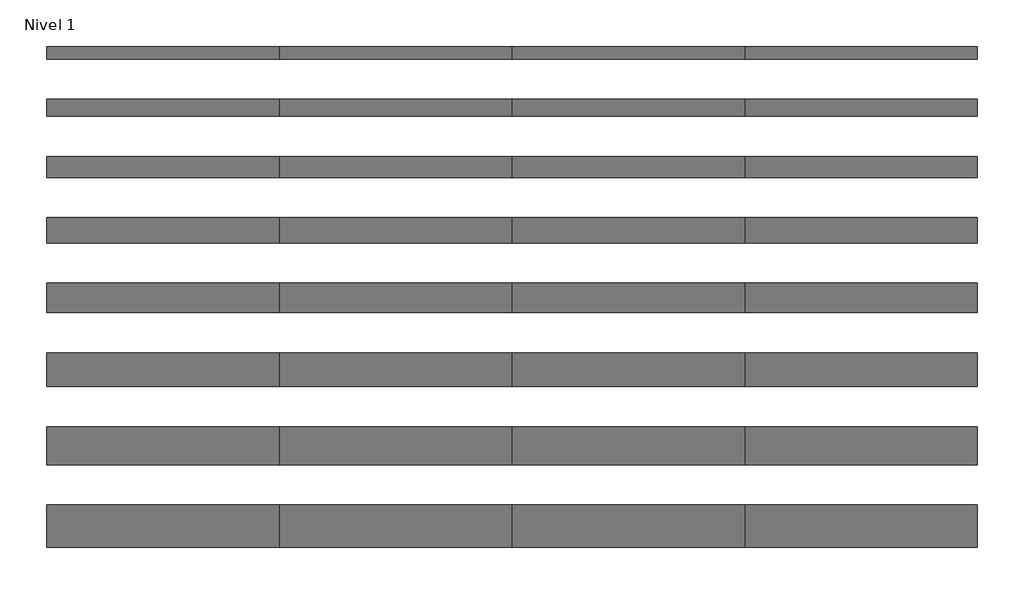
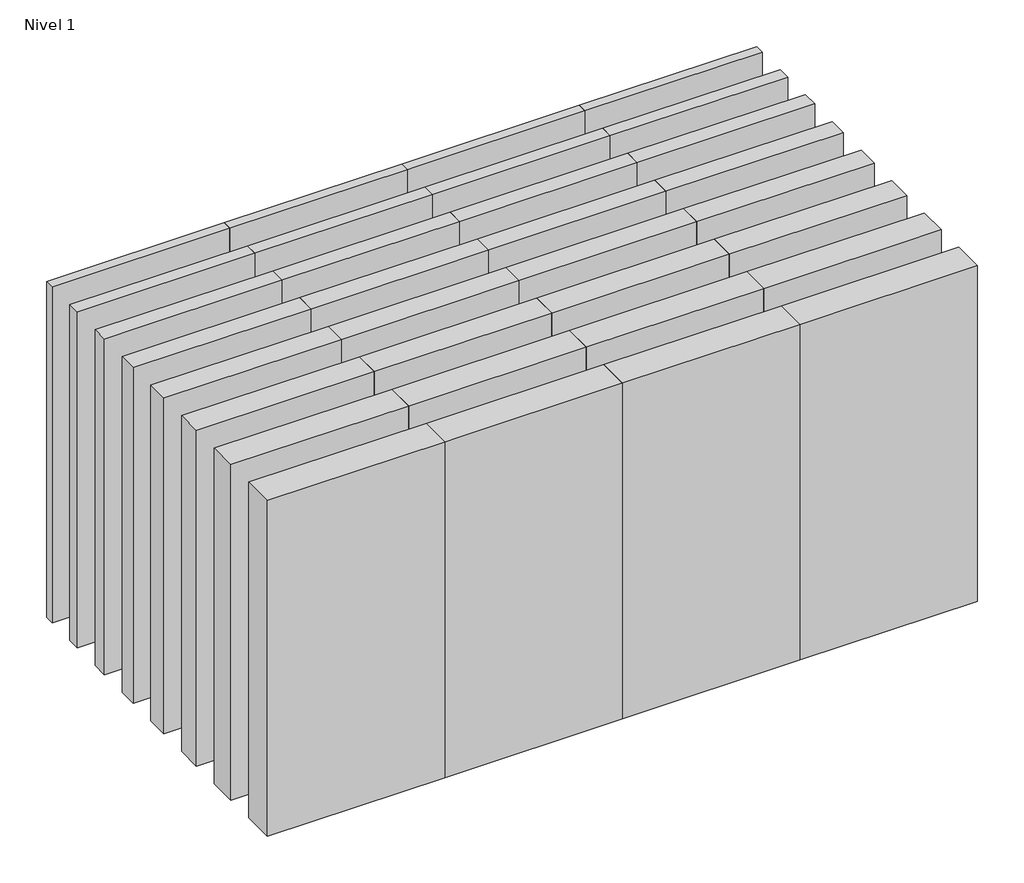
# One storey: 32 plates.
"""IFC4 building model written with IfcOpenShell, lengths in millimetres."""

from ifc_helpers import new_model, si_unit, origin, place, context, project, spatial, transform, mapped, element, save
from components import panel_del_sistema_00c51783, panel_del_sistema_633de202, panel_del_sistema_becaef52, panel_del_sistema_3f4cdfb2, panel_del_sistema_e1a72ffe, panel_del_sistema_e42a28a5, panel_del_sistema_94fc436b, panel_del_sistema_08b3212e

model = new_model("IFC4")

# Units and contexts
model_context = context("Model", 3, world=origin())
ifc_project = project(units=[si_unit("LENGTHUNIT", "METRE", prefix="MILLI")], contexts=[model_context])

# Site, building, storey
site = spatial("IfcSite", under=ifc_project)
building = spatial("IfcBuilding", under=site)
storey = spatial("IfcBuildingStorey", under=building, Name="Nivel 1", Elevation=0.0)

# Plates
placement = place(None, origin())
panel_del_sistema_shape = panel_del_sistema_00c51783(model_context)
element("IfcPlate", 1, ObjectType="Panel del sistema : Hiansa Panel - Fachada Panel FRIGO ULTRA - 60mm", at=placement, inside=storey, context=model_context, shape_type="MappedRepresentation", body=[
    mapped(panel_del_sistema_shape, transform((4818.1436702, 17636.5269276, 0.0), x_axis=(1.0, 0.0, 0.0), y_axis=(0.0, 1.0, 0.0), z_axis=(0.0, 0.0, 1.0))),
])
element("IfcPlate", 2, ObjectType="Panel del sistema : Hiansa Panel - Fachada Panel FRIGO ULTRA - 60mm", at=placement, inside=storey, context=model_context, shape_type="MappedRepresentation", body=[
    mapped(panel_del_sistema_shape, transform((5918.1436703, 17636.5269276, 0.0), x_axis=(1.0, 0.0, 0.0), y_axis=(0.0, 1.0, 0.0), z_axis=(0.0, 0.0, 1.0))),
])
element("IfcPlate", 3, ObjectType="Panel del sistema : Hiansa Panel - Fachada Panel FRIGO ULTRA - 60mm", at=placement, inside=storey, context=model_context, shape_type="MappedRepresentation", body=[
    mapped(panel_del_sistema_shape, transform((7018.1436703, 17636.5269276, 0.0), x_axis=(1.0, 0.0, 0.0), y_axis=(0.0, 1.0, 0.0), z_axis=(0.0, 0.0, 1.0))),
])
element("IfcPlate", 4, ObjectType="Panel del sistema : Hiansa Panel - Fachada Panel FRIGO ULTRA - 60mm", at=placement, inside=storey, context=model_context, shape_type="MappedRepresentation", body=[
    mapped(panel_del_sistema_shape, transform((8118.1436702, 17636.5269276, 0.0), x_axis=(1.0, 0.0, 0.0), y_axis=(0.0, 1.0, 0.0), z_axis=(0.0, 0.0, 1.0))),
])
panel_del_sistema_2_shape = panel_del_sistema_633de202(model_context)
element("IfcPlate", 5, ObjectType="Panel del sistema : Hiansa Panel - Fachada Panel FRIGO ULTRA - 80mm", at=placement, inside=storey, context=model_context, shape_type="MappedRepresentation", body=[
    mapped(panel_del_sistema_2_shape, transform((4818.1436702, 17386.5269276, 0.0), x_axis=(1.0, 0.0, 0.0), y_axis=(0.0, 1.0, 0.0), z_axis=(0.0, 0.0, 1.0))),
])
element("IfcPlate", 6, ObjectType="Panel del sistema : Hiansa Panel - Fachada Panel FRIGO ULTRA - 80mm", at=placement, inside=storey, context=model_context, shape_type="MappedRepresentation", body=[
    mapped(panel_del_sistema_2_shape, transform((5918.1436703, 17386.5269276, 0.0), x_axis=(1.0, 0.0, 0.0), y_axis=(0.0, 1.0, 0.0), z_axis=(0.0, 0.0, 1.0))),
])
element("IfcPlate", 7, ObjectType="Panel del sistema : Hiansa Panel - Fachada Panel FRIGO ULTRA - 80mm", at=placement, inside=storey, context=model_context, shape_type="MappedRepresentation", body=[
    mapped(panel_del_sistema_2_shape, transform((7018.1436703, 17386.5269276, 0.0), x_axis=(1.0, 0.0, 0.0), y_axis=(0.0, 1.0, 0.0), z_axis=(0.0, 0.0, 1.0))),
])
element("IfcPlate", 8, ObjectType="Panel del sistema : Hiansa Panel - Fachada Panel FRIGO ULTRA - 80mm", at=placement, inside=storey, context=model_context, shape_type="MappedRepresentation", body=[
    mapped(panel_del_sistema_2_shape, transform((8118.1436702, 17386.5269276, 0.0), x_axis=(1.0, 0.0, 0.0), y_axis=(0.0, 1.0, 0.0), z_axis=(0.0, 0.0, 1.0))),
])
panel_del_sistema_3_shape = panel_del_sistema_becaef52(model_context)
element("IfcPlate", 9, ObjectType="Panel del sistema : Hiansa Panel - Fachada Panel FRIGO ULTRA - 100mm", at=placement, inside=storey, context=model_context, shape_type="MappedRepresentation", body=[
    mapped(panel_del_sistema_3_shape, transform((4818.1436702, 17116.5269271, 0.0), x_axis=(1.0, 0.0, 0.0), y_axis=(0.0, 1.0, 0.0), z_axis=(0.0, 0.0, 1.0))),
])
element("IfcPlate", 10, ObjectType="Panel del sistema : Hiansa Panel - Fachada Panel FRIGO ULTRA - 100mm", at=placement, inside=storey, context=model_context, shape_type="MappedRepresentation", body=[
    mapped(panel_del_sistema_3_shape, transform((5918.1436703, 17116.5269271, 0.0), x_axis=(1.0, 0.0, 0.0), y_axis=(0.0, 1.0, 0.0), z_axis=(0.0, 0.0, 1.0))),
])
element("IfcPlate", 11, ObjectType="Panel del sistema : Hiansa Panel - Fachada Panel FRIGO ULTRA - 100mm", at=placement, inside=storey, context=model_context, shape_type="MappedRepresentation", body=[
    mapped(panel_del_sistema_3_shape, transform((7018.1436703, 17116.5269271, 0.0), x_axis=(1.0, 0.0, 0.0), y_axis=(0.0, 1.0, 0.0), z_axis=(0.0, 0.0, 1.0))),
])
element("IfcPlate", 12, ObjectType="Panel del sistema : Hiansa Panel - Fachada Panel FRIGO ULTRA - 100mm", at=placement, inside=storey, context=model_context, shape_type="MappedRepresentation", body=[
    mapped(panel_del_sistema_3_shape, transform((8118.1436702, 17116.5269271, 0.0), x_axis=(1.0, 0.0, 0.0), y_axis=(0.0, 1.0, 0.0), z_axis=(0.0, 0.0, 1.0))),
])
panel_del_sistema_4_shape = panel_del_sistema_3f4cdfb2(model_context)
element("IfcPlate", 13, ObjectType="Panel del sistema : Hiansa Panel - Fachada Panel FRIGO ULTRA - 120mm", at=placement, inside=storey, context=model_context, shape_type="MappedRepresentation", body=[
    mapped(panel_del_sistema_4_shape, transform((4818.1436702, 16826.5269271, 0.0), x_axis=(1.0, 0.0, 0.0), y_axis=(0.0, 1.0, 0.0), z_axis=(0.0, 0.0, 1.0))),
])
element("IfcPlate", 14, ObjectType="Panel del sistema : Hiansa Panel - Fachada Panel FRIGO ULTRA - 120mm", at=placement, inside=storey, context=model_context, shape_type="MappedRepresentation", body=[
    mapped(panel_del_sistema_4_shape, transform((5918.1436703, 16826.5269271, 0.0), x_axis=(1.0, 0.0, 0.0), y_axis=(0.0, 1.0, 0.0), z_axis=(0.0, 0.0, 1.0))),
])
element("IfcPlate", 15, ObjectType="Panel del sistema : Hiansa Panel - Fachada Panel FRIGO ULTRA - 120mm", at=placement, inside=storey, context=model_context, shape_type="MappedRepresentation", body=[
    mapped(panel_del_sistema_4_shape, transform((7018.1436703, 16826.5269271, 0.0), x_axis=(1.0, 0.0, 0.0), y_axis=(0.0, 1.0, 0.0), z_axis=(0.0, 0.0, 1.0))),
])
element("IfcPlate", 16, ObjectType="Panel del sistema : Hiansa Panel - Fachada Panel FRIGO ULTRA - 120mm", at=placement, inside=storey, context=model_context, shape_type="MappedRepresentation", body=[
    mapped(panel_del_sistema_4_shape, transform((8118.1436702, 16826.5269271, 0.0), x_axis=(1.0, 0.0, 0.0), y_axis=(0.0, 1.0, 0.0), z_axis=(0.0, 0.0, 1.0))),
])
panel_del_sistema_5_shape = panel_del_sistema_e1a72ffe(model_context)
element("IfcPlate", 17, ObjectType="Panel del sistema : Hiansa Panel - Fachada Panel FRIGO ULTRA - 140mm", at=placement, inside=storey, context=model_context, shape_type="MappedRepresentation", body=[
    mapped(panel_del_sistema_5_shape, transform((4818.1436702, 16517.5269271, 0.0), x_axis=(1.0, 0.0, 0.0), y_axis=(0.0, 1.0, 0.0), z_axis=(0.0, 0.0, 1.0))),
])
element("IfcPlate", 18, ObjectType="Panel del sistema : Hiansa Panel - Fachada Panel FRIGO ULTRA - 140mm", at=placement, inside=storey, context=model_context, shape_type="MappedRepresentation", body=[
    mapped(panel_del_sistema_5_shape, transform((5918.1436703, 16517.5269271, 0.0), x_axis=(1.0, 0.0, 0.0), y_axis=(0.0, 1.0, 0.0), z_axis=(0.0, 0.0, 1.0))),
])
element("IfcPlate", 19, ObjectType="Panel del sistema : Hiansa Panel - Fachada Panel FRIGO ULTRA - 140mm", at=placement, inside=storey, context=model_context, shape_type="MappedRepresentation", body=[
    mapped(panel_del_sistema_5_shape, transform((7018.1436703, 16517.5269271, 0.0), x_axis=(1.0, 0.0, 0.0), y_axis=(0.0, 1.0, 0.0), z_axis=(0.0, 0.0, 1.0))),
])
element("IfcPlate", 20, ObjectType="Panel del sistema : Hiansa Panel - Fachada Panel FRIGO ULTRA - 140mm", at=placement, inside=storey, context=model_context, shape_type="MappedRepresentation", body=[
    mapped(panel_del_sistema_5_shape, transform((8118.1436702, 16517.5269271, 0.0), x_axis=(1.0, 0.0, 0.0), y_axis=(0.0, 1.0, 0.0), z_axis=(0.0, 0.0, 1.0))),
])
panel_del_sistema_6_shape = panel_del_sistema_e42a28a5(model_context)
element("IfcPlate", 21, ObjectType="Panel del sistema : Hiansa Panel - Fachada Panel FRIGO ULTRA - 160mm", at=placement, inside=storey, context=model_context, shape_type="MappedRepresentation", body=[
    mapped(panel_del_sistema_6_shape, transform((4818.1436702, 16187.5269271, 0.0), x_axis=(1.0, 0.0, 0.0), y_axis=(0.0, 1.0, 0.0), z_axis=(0.0, 0.0, 1.0))),
])
element("IfcPlate", 22, ObjectType="Panel del sistema : Hiansa Panel - Fachada Panel FRIGO ULTRA - 160mm", at=placement, inside=storey, context=model_context, shape_type="MappedRepresentation", body=[
    mapped(panel_del_sistema_6_shape, transform((5918.1436703, 16187.5269271, 0.0), x_axis=(1.0, 0.0, 0.0), y_axis=(0.0, 1.0, 0.0), z_axis=(0.0, 0.0, 1.0))),
])
element("IfcPlate", 23, ObjectType="Panel del sistema : Hiansa Panel - Fachada Panel FRIGO ULTRA - 160mm", at=placement, inside=storey, context=model_context, shape_type="MappedRepresentation", body=[
    mapped(panel_del_sistema_6_shape, transform((7018.1436703, 16187.5269271, 0.0), x_axis=(1.0, 0.0, 0.0), y_axis=(0.0, 1.0, 0.0), z_axis=(0.0, 0.0, 1.0))),
])
element("IfcPlate", 24, ObjectType="Panel del sistema : Hiansa Panel - Fachada Panel FRIGO ULTRA - 160mm", at=placement, inside=storey, context=model_context, shape_type="MappedRepresentation", body=[
    mapped(panel_del_sistema_6_shape, transform((8118.1436702, 16187.5269271, 0.0), x_axis=(1.0, 0.0, 0.0), y_axis=(0.0, 1.0, 0.0), z_axis=(0.0, 0.0, 1.0))),
])
panel_del_sistema_7_shape = panel_del_sistema_94fc436b(model_context)
element("IfcPlate", 25, ObjectType="Panel del sistema : Hiansa Panel - Fachada Panel FRIGO ULTRA - 180mm", at=placement, inside=storey, context=model_context, shape_type="MappedRepresentation", body=[
    mapped(panel_del_sistema_7_shape, transform((4818.1436702, 15837.5269271, 0.0), x_axis=(1.0, 0.0, 0.0), y_axis=(0.0, 1.0, 0.0), z_axis=(0.0, 0.0, 1.0))),
])
element("IfcPlate", 26, ObjectType="Panel del sistema : Hiansa Panel - Fachada Panel FRIGO ULTRA - 180mm", at=placement, inside=storey, context=model_context, shape_type="MappedRepresentation", body=[
    mapped(panel_del_sistema_7_shape, transform((5918.1436703, 15837.5269271, 0.0), x_axis=(1.0, 0.0, 0.0), y_axis=(0.0, 1.0, 0.0), z_axis=(0.0, 0.0, 1.0))),
])
element("IfcPlate", 27, ObjectType="Panel del sistema : Hiansa Panel - Fachada Panel FRIGO ULTRA - 180mm", at=placement, inside=storey, context=model_context, shape_type="MappedRepresentation", body=[
    mapped(panel_del_sistema_7_shape, transform((7018.1436703, 15837.5269271, 0.0), x_axis=(1.0, 0.0, 0.0), y_axis=(0.0, 1.0, 0.0), z_axis=(0.0, 0.0, 1.0))),
])
element("IfcPlate", 28, ObjectType="Panel del sistema : Hiansa Panel - Fachada Panel FRIGO ULTRA - 180mm", at=placement, inside=storey, context=model_context, shape_type="MappedRepresentation", body=[
    mapped(panel_del_sistema_7_shape, transform((8118.1436702, 15837.5269271, 0.0), x_axis=(1.0, 0.0, 0.0), y_axis=(0.0, 1.0, 0.0), z_axis=(0.0, 0.0, 1.0))),
])
panel_del_sistema_8_shape = panel_del_sistema_08b3212e(model_context)
element("IfcPlate", 29, ObjectType="Panel del sistema : Hiansa Panel - Fachada Panel FRIGO ULTRA - 200mm", at=placement, inside=storey, context=model_context, shape_type="MappedRepresentation", body=[
    mapped(panel_del_sistema_8_shape, transform((4818.1436702, 15468.5269271, 0.0), x_axis=(1.0, 0.0, 0.0), y_axis=(0.0, 1.0, 0.0), z_axis=(0.0, 0.0, 1.0))),
])
element("IfcPlate", 30, ObjectType="Panel del sistema : Hiansa Panel - Fachada Panel FRIGO ULTRA - 200mm", at=placement, inside=storey, context=model_context, shape_type="MappedRepresentation", body=[
    mapped(panel_del_sistema_8_shape, transform((5918.1436703, 15468.5269271, 0.0), x_axis=(1.0, 0.0, 0.0), y_axis=(0.0, 1.0, 0.0), z_axis=(0.0, 0.0, 1.0))),
])
element("IfcPlate", 31, ObjectType="Panel del sistema : Hiansa Panel - Fachada Panel FRIGO ULTRA - 200mm", at=placement, inside=storey, context=model_context, shape_type="MappedRepresentation", body=[
    mapped(panel_del_sistema_8_shape, transform((7018.1436703, 15468.5269271, 0.0), x_axis=(1.0, 0.0, 0.0), y_axis=(0.0, 1.0, 0.0), z_axis=(0.0, 0.0, 1.0))),
])
element("IfcPlate", 32, ObjectType="Panel del sistema : Hiansa Panel - Fachada Panel FRIGO ULTRA - 200mm", at=placement, inside=storey, context=model_context, shape_type="MappedRepresentation", body=[
    mapped(panel_del_sistema_8_shape, transform((8118.1436702, 15468.5269271, 0.0), x_axis=(1.0, 0.0, 0.0), y_axis=(0.0, 1.0, 0.0), z_axis=(0.0, 0.0, 1.0))),
])

save(model, "model.ifc")
